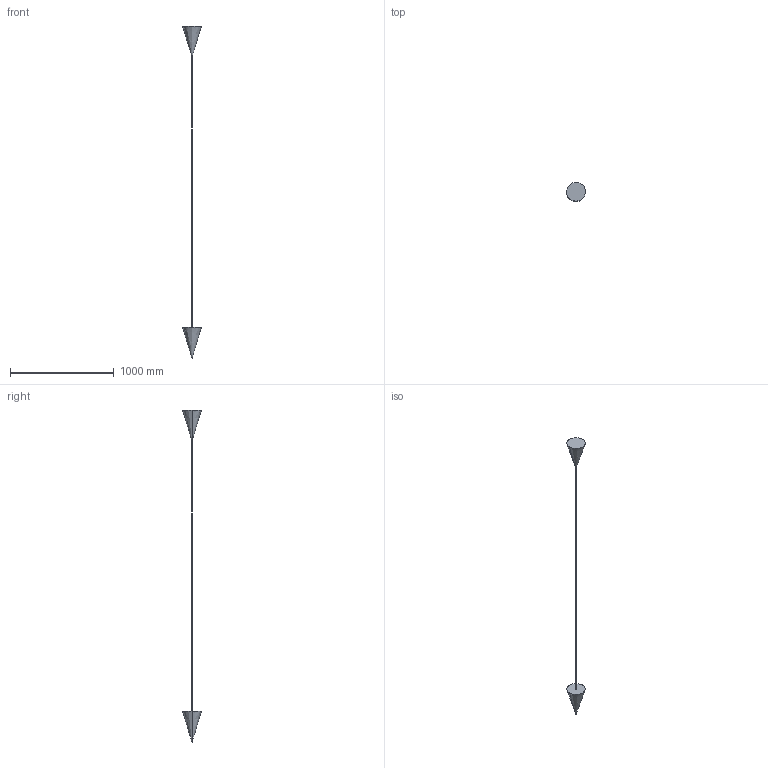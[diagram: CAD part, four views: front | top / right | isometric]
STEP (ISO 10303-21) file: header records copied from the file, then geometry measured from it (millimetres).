
FILE_DESCRIPTION(/* description */ (''),/* implementation_level */ '2;1');
FILE_NAME(/* name */ 'PEAKS-1-up',/* time_stamp */ '2023-08-21T17:08:20+01:00',/* author */ (''),/* organization */ (''),/* preprocessor_version */ 'ST-DEVELOPER v16.5',/* originating_system */ 'Rhino 7.32',/* authorisation */ '');
FILE_SCHEMA (('CONFIG_CONTROL_DESIGN'));
Length unit declared in the file: millimetre
Products named in the file (1): Document
Bounding box: 180 x 179.77 x 3200 mm (x, y, z)
Volume: 5124827.2 mm3; surface area: 264274.6 mm2
Topology: 1 solids, 1 shells, 11 faces, 22 edges, 13 vertices
Faces by surface type: bspline 6, plane 3, cylinder 2
Entity records: 393 total; most frequent: CARTESIAN_POINT 174, ORIENTED_EDGE 40, EDGE_CURVE 20, EDGE_LOOP 13, VERTEX_POINT 13, ADVANCED_FACE 11, FACE_OUTER_BOUND 11, DIRECTION 9
